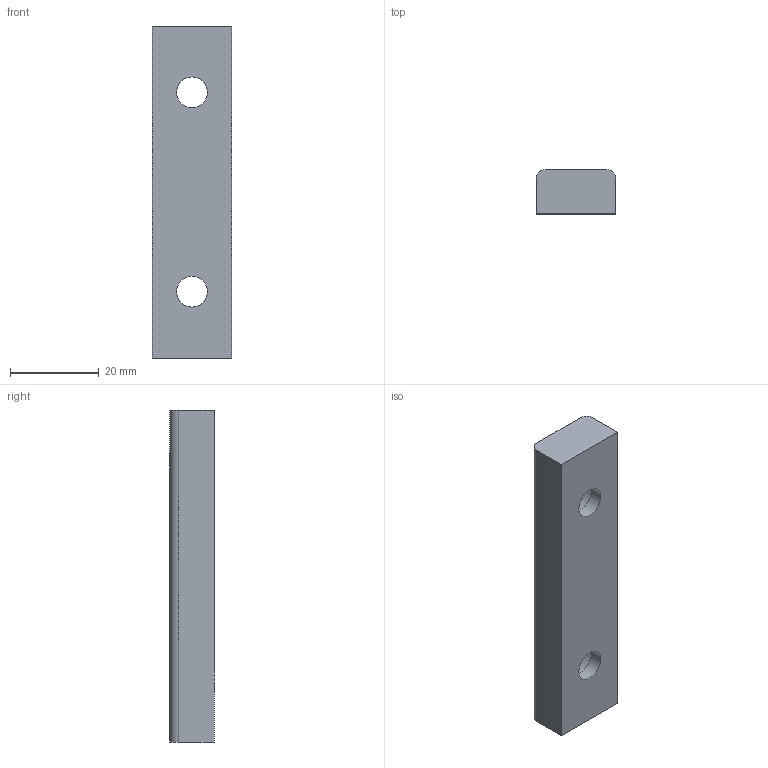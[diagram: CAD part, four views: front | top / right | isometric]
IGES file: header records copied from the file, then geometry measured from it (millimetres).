
Start section: Data from Parasolid IGES Translator 20.0.26, Copyright(c) 2006 Siemens P LM Software. All Rights Reserved.
Global section: file name: G220-01-018-075.igs; native system: By Siemens PLM Incorporated; preprocessor: XPlus GENERIC/IGES 20.0.26; author: Noname; organization: Noname; date: 20190705.150333; units: millimetre
Bounding box: 18 x 10 x 75 mm (x, y, z)
Surface area: 4889.6 mm2 (no closed solid volume)
Topology: 0 solids, 0 shells, 14 faces, 60 edges, 54 vertices
Faces by surface type: extrusion 8, revolution 6
